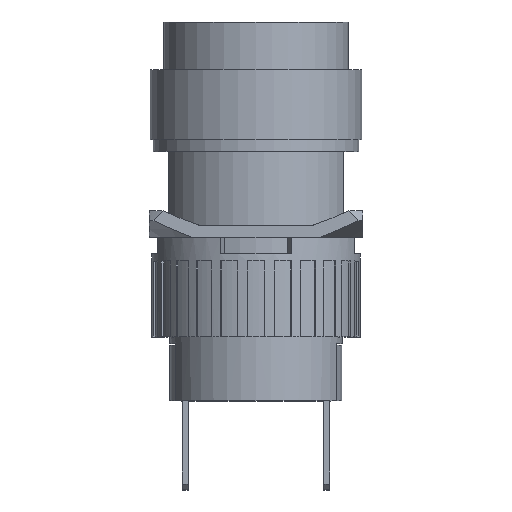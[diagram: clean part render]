
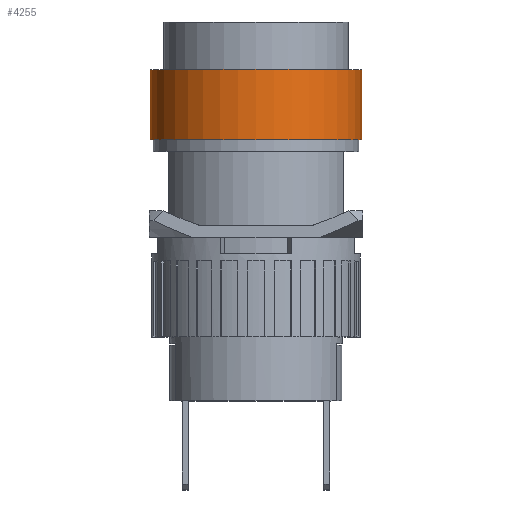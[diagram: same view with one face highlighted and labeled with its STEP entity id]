
A CAD part, top view. The second image highlights one B-rep face of the part: STEP entity #4255.
In plain terms, the highlighted cylindrical face has radius 8.9 mm (diameter 17.8 mm), a partial arc.
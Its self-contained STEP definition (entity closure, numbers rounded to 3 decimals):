
#67 = CARTESIAN_POINT ( 'NONE',  ( 0., 18., 0. ) ) ;
#71 = LINE ( 'NONE', #72, #3288 ) ;
#72 = CARTESIAN_POINT ( 'NONE',  ( 8.9, 0., 0. ) ) ;
#73 = DIRECTION ( 'NONE',  ( 0., 1., 0. ) ) ;
#74 = DIRECTION ( 'NONE',  ( 0., 1., 0. ) ) ;
#75 = DIRECTION ( 'NONE',  ( -1., 0., 0. ) ) ;
#76 = CARTESIAN_POINT ( 'NONE',  ( 0., 23.9, 0. ) ) ;
#77 = DIRECTION ( 'NONE',  ( 0., 1., 0. ) ) ;
#78 = DIRECTION ( 'NONE',  ( -1., 0., 0. ) ) ;
#80 = LINE ( 'NONE', #81, #3291 ) ;
#81 = CARTESIAN_POINT ( 'NONE',  ( -8.9, 0., 0. ) ) ;
#82 = DIRECTION ( 'NONE',  ( 0., 1., 0. ) ) ;
#3235 = FACE_OUTER_BOUND ( 'NONE', #3431, .T. ) ;
#3238 = AXIS2_PLACEMENT_3D ( 'NONE', #6437, #6438, #6439 ) ;
#3239 = CYLINDRICAL_SURFACE ( 'NONE', #3238, 8.9 ) ;
#3278 = AXIS2_PLACEMENT_3D ( 'NONE', #76, #77, #78 ) ;
#3287 = AXIS2_PLACEMENT_3D ( 'NONE', #67, #74, #75 ) ;
#3288 = VECTOR ( 'NONE', #73, 1000. ) ;
#3291 = VECTOR ( 'NONE', #82, 1000. ) ;
#3345 = VERTEX_POINT ( 'NONE', #6130 ) ;
#3346 = VERTEX_POINT ( 'NONE', #6131 ) ;
#3351 = VERTEX_POINT ( 'NONE', #6135 ) ;
#3352 = VERTEX_POINT ( 'NONE', #6136 ) ;
#3431 = EDGE_LOOP ( 'NONE', ( #3658, #3660, #3659, #3661 ) ) ;
#3658 = ORIENTED_EDGE ( 'NONE', *, *, #4304, .T. ) ;
#3659 = ORIENTED_EDGE ( 'NONE', *, *, #4305, .F. ) ;
#3660 = ORIENTED_EDGE ( 'NONE', *, *, #4303, .T. ) ;
#3661 = ORIENTED_EDGE ( 'NONE', *, *, #4306, .F. ) ;
#4255 = ADVANCED_FACE ( 'NONE', ( #3235 ), #3239, .T. ) ;
#4303 = EDGE_CURVE ( 'NONE', #3346, #3351, #71, .T. ) ;
#4304 = EDGE_CURVE ( 'NONE', #3345, #3346, #5157, .T. ) ;
#4305 = EDGE_CURVE ( 'NONE', #3352, #3351, #5158, .T. ) ;
#4306 = EDGE_CURVE ( 'NONE', #3345, #3352, #80, .T. ) ;
#5157 = CIRCLE ( 'NONE', #3287, 8.9 ) ;
#5158 = CIRCLE ( 'NONE', #3278, 8.9 ) ;
#6130 = CARTESIAN_POINT ( 'NONE',  ( -8.9, 18., 0. ) ) ;
#6131 = CARTESIAN_POINT ( 'NONE',  ( 8.9, 18., 0. ) ) ;
#6135 = CARTESIAN_POINT ( 'NONE',  ( 8.9, 23.9, 0. ) ) ;
#6136 = CARTESIAN_POINT ( 'NONE',  ( -8.9, 23.9, 0. ) ) ;
#6437 = CARTESIAN_POINT ( 'NONE',  ( 0., 0., 0. ) ) ;
#6438 = DIRECTION ( 'NONE',  ( 0., 1., 0. ) ) ;
#6439 = DIRECTION ( 'NONE',  ( -1., 0., 0. ) ) ;
